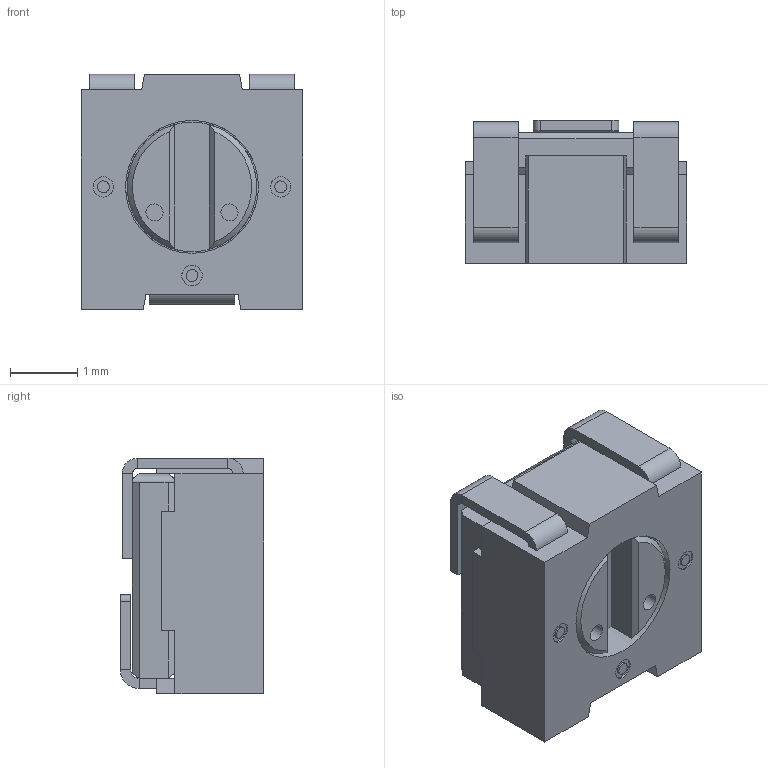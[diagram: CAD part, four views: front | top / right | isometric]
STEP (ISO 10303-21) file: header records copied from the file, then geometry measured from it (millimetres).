
FILE_DESCRIPTION((''),'2;1');
FILE_NAME('TS3Y','2018-02-27T',('RICKB'),('Bourns, Inc.'),'CREO PARAMETRIC BY PTC INC, 2016130','CREO PARAMETRIC BY PTC INC, 2016130','');
FILE_SCHEMA(('CONFIG_CONTROL_DESIGN'));
Length unit declared in the file: millimetre
Products named in the file (1): TS3Y
Bounding box: 3.3 x 2.13 x 3.51 mm (x, y, z)
Volume: 19.9 mm3; surface area: 90.9 mm2
Topology: 1 solids, 1 shells, 171 faces, 496 edges, 321 vertices
Faces by surface type: plane 115, cylinder 51, cone 5
Entity records: 5739 total; most frequent: CARTESIAN_POINT 1042, ORIENTED_EDGE 990, DIRECTION 986, EDGE_CURVE 495, AXIS2_PLACEMENT_3D 333, VECTOR 320, LINE 320, VERTEX_POINT 320
